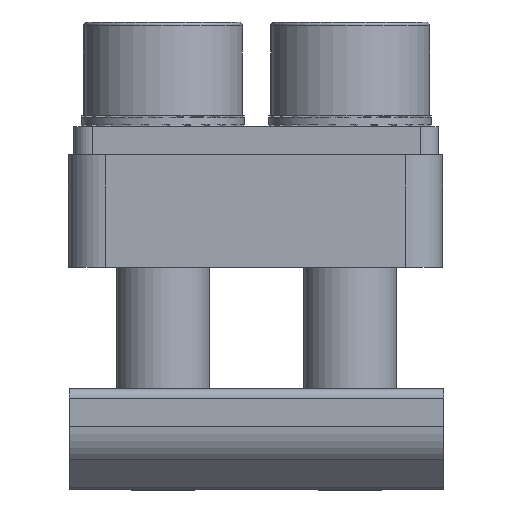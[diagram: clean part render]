
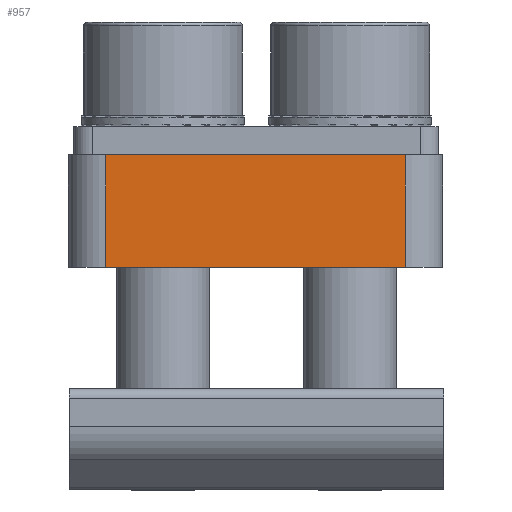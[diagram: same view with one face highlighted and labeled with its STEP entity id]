
A CAD part, front view. The second image highlights one B-rep face of the part: STEP entity #957.
In plain terms, the highlighted planar face has unit normal (0, -1, 0).
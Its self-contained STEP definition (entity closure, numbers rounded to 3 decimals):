
#957 = ADVANCED_FACE ( 'NONE', ( #9244 ), #6074, .T. ) ;
#2308 = VERTEX_POINT ( 'NONE', #11753 ) ;
#2530 = LINE ( 'NONE', #2669, #11564 ) ;
#2543 = LINE ( 'NONE', #5910, #22470 ) ;
#2669 = CARTESIAN_POINT ( 'NONE',  ( -96.225, -37.983, 54.105 ) ) ;
#2983 = VECTOR ( 'NONE', #5546, 1000. ) ;
#4615 = DIRECTION ( 'NONE',  ( 1., 0., 0. ) ) ;
#5529 = EDGE_CURVE ( 'NONE', #25069, #22811, #2543, .T. ) ;
#5546 = DIRECTION ( 'NONE',  ( 0., 0., 1. ) ) ;
#5910 = CARTESIAN_POINT ( 'NONE',  ( -104.225, -37.983, 51.105 ) ) ;
#6074 = PLANE ( 'NONE',  #17167 ) ;
#8575 = DIRECTION ( 'NONE',  ( 0., -1., 0. ) ) ;
#8648 = CARTESIAN_POINT ( 'NONE',  ( -104.225, -37.983, 54.105 ) ) ;
#8738 = DIRECTION ( 'NONE',  ( 0., 0., -1. ) ) ;
#9244 = FACE_OUTER_BOUND ( 'NONE', #14848, .T. ) ;
#10262 = EDGE_CURVE ( 'NONE', #19667, #2308, #17809, .T. ) ;
#10627 = ORIENTED_EDGE ( 'NONE', *, *, #20360, .T. ) ;
#11564 = VECTOR ( 'NONE', #4615, 1000. ) ;
#11753 = CARTESIAN_POINT ( 'NONE',  ( -88.225, -37.983, 54.105 ) ) ;
#12546 = DIRECTION ( 'NONE',  ( 1., 0., 0. ) ) ;
#12985 = ORIENTED_EDGE ( 'NONE', *, *, #14275, .F. ) ;
#13308 = CARTESIAN_POINT ( 'NONE',  ( -88.225, -37.983, 51.105 ) ) ;
#13555 = LINE ( 'NONE', #24094, #23815 ) ;
#14275 = EDGE_CURVE ( 'NONE', #25069, #2308, #2530, .T. ) ;
#14848 = EDGE_LOOP ( 'NONE', ( #10627, #18699, #12985, #17143 ) ) ;
#16883 = CARTESIAN_POINT ( 'NONE',  ( -104.225, -37.983, 54.105 ) ) ;
#17143 = ORIENTED_EDGE ( 'NONE', *, *, #5529, .T. ) ;
#17167 = AXIS2_PLACEMENT_3D ( 'NONE', #8648, #8575, #8738 ) ;
#17809 = LINE ( 'NONE', #13308, #2983 ) ;
#18699 = ORIENTED_EDGE ( 'NONE', *, *, #10262, .T. ) ;
#19667 = VERTEX_POINT ( 'NONE', #22954 ) ;
#20360 = EDGE_CURVE ( 'NONE', #22811, #19667, #13555, .T. ) ;
#22470 = VECTOR ( 'NONE', #23110, 1000. ) ;
#22811 = VERTEX_POINT ( 'NONE', #23037 ) ;
#22954 = CARTESIAN_POINT ( 'NONE',  ( -88.225, -37.983, 48.105 ) ) ;
#23037 = CARTESIAN_POINT ( 'NONE',  ( -104.225, -37.983, 48.105 ) ) ;
#23110 = DIRECTION ( 'NONE',  ( 0., 0., -1. ) ) ;
#23815 = VECTOR ( 'NONE', #12546, 1000. ) ;
#24094 = CARTESIAN_POINT ( 'NONE',  ( -96.225, -37.983, 48.105 ) ) ;
#25069 = VERTEX_POINT ( 'NONE', #16883 ) ;
